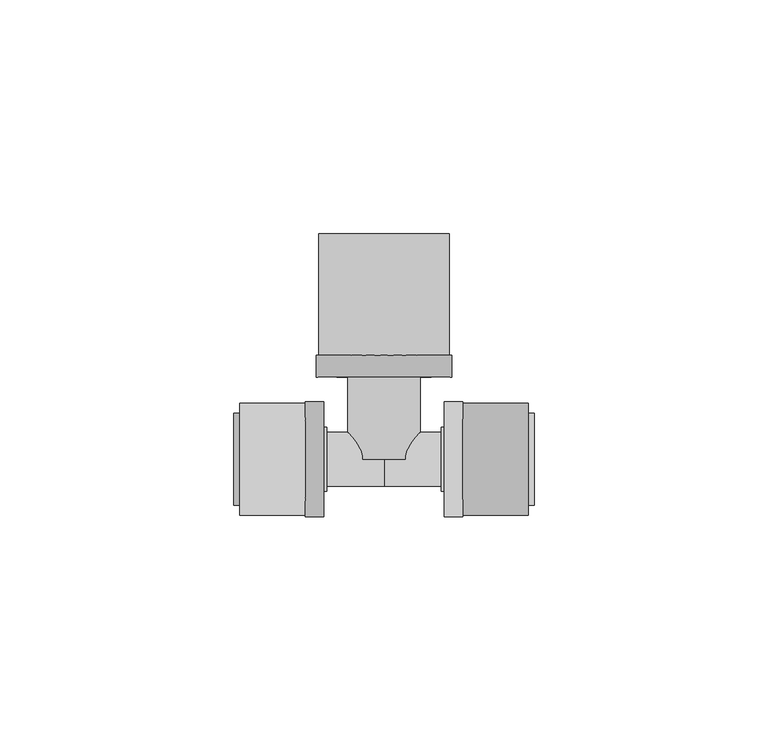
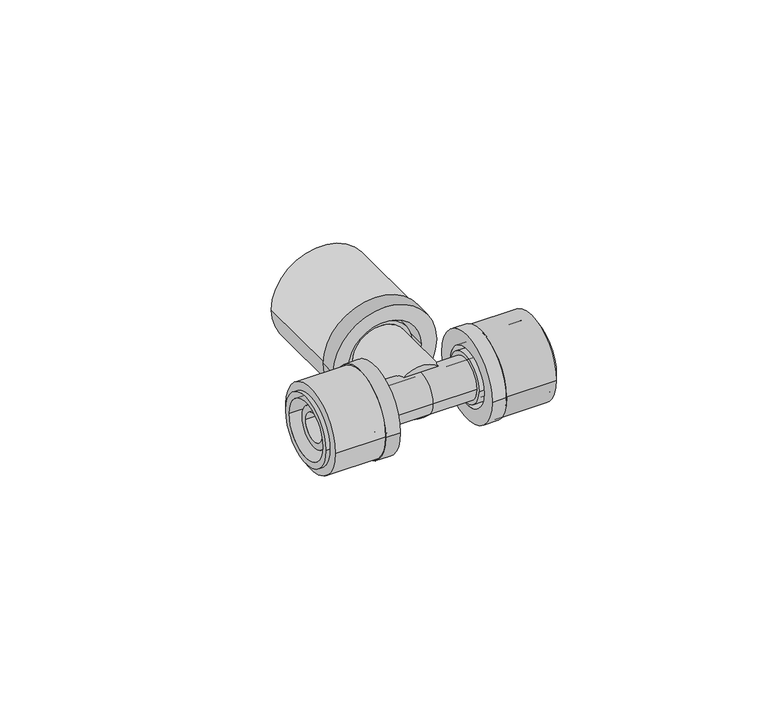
"""IFC4 building model written with IfcOpenShell, lengths in millimetres: pipe fitting geometry, FASTLOC_T-piece_EX+ : FSL T-Piece EX+ AT."""

from ifc_helpers import new_model, si_unit, point, frame, origin, origin_2d, place, context, project, spatial, polyline, circle_curve, trimmed, segment, composite_curve, outline, extrude, source, transform, mapped, element, save
from ifc_brep_helpers import plane_surface, cylinder_surface, revolved_surface, advanced_brep


def pipe_fitting_006a9863(model_context):
    return source(origin(), model_context, "Body", "SolidModel", [
        extrude(outline(composite_curve([segment(trimmed(circle_curve(origin_2d(), 12.0), [point((-12.0, 0.0))], [point((12.0, 0.0))], False, "CARTESIAN"), True, "CONTINUOUS"), segment(trimmed(circle_curve(origin_2d(), 12.0), [point((12.0, 0.0))], [point((-12.0, 0.0))], False, "CARTESIAN"), True, "CONTINUOUS")], self_intersect=False), holes=[composite_curve([segment(trimmed(circle_curve(origin_2d(), 8.85), [point((-8.85, 0.0))], [point((8.85, 0.0))], True, "CARTESIAN"), True, "CONTINUOUS"), segment(trimmed(circle_curve(origin_2d(), 8.85), [point((8.85, 0.0))], [point((-8.85, 0.0))], True, "CARTESIAN"), True, "CONTINUOUS")], self_intersect=False)]), frame((16.9, 0.0, 0.0), z_axis=(1.0, 0.0, 0.0), x_axis=(0.0, 1.0, 0.0)), (0.0, 0.0, 1.0), 14.0),
        advanced_brep(
        [(16.9, 12.35, 0.0), (16.9, -12.35, 0.0), (12.9, -12.35, 0.0), (12.9, 12.35, 0.0), (32.2, 9.85, 0.0), (32.2, -9.85, 0.0), (16.9, -9.85, 0.0), (16.9, 9.85, 0.0), (12.9, 8.15, 0.0), (12.9, -8.15, 0.0), (32.2, -8.15, 0.0), (32.2, 8.15, 0.0)],
        [
            (0, 1, circle_curve(frame((16.9, 0.0, 0.0), z_axis=(-1.0, 0.0, 0.0), x_axis=(0.0, -1.0, 0.0)), 12.35)),
            (1, 2),
            (2, 3, circle_curve(frame((12.9, 0.0, 0.0), z_axis=(1.0, 0.0, 0.0), x_axis=(0.0, -1.0, 0.0)), 12.35)),
            (3, 0),
            (4, 5, circle_curve(frame((32.2, 0.0, 0.0), z_axis=(-1.0, 0.0, 0.0), x_axis=(0.0, -1.0, 0.0)), 9.85)),
            (5, 6),
            (6, 7, circle_curve(frame((16.9, 0.0, 0.0), z_axis=(1.0, 0.0, 0.0), x_axis=(0.0, -1.0, 0.0)), 9.85)),
            (7, 4),
            (8, 9, circle_curve(frame((12.9, 0.0, 0.0), z_axis=(-1.0, 0.0, 0.0), x_axis=(0.0, -1.0, 0.0)), 8.15)),
            (9, 10),
            (10, 11, circle_curve(frame((32.2, 0.0, 0.0), z_axis=(1.0, 0.0, 0.0), x_axis=(0.0, -1.0, 0.0)), 8.15)),
            (11, 8),
            (1, 0, circle_curve(frame((16.9, 0.0, 0.0), z_axis=(-1.0, 0.0, 0.0), x_axis=(0.0, 1.0, 0.0)), 12.35)),
            (3, 2, circle_curve(frame((12.9, 0.0, 0.0), z_axis=(1.0, 0.0, 0.0), x_axis=(0.0, 1.0, 0.0)), 12.35)),
            (6, 7, circle_curve(frame((16.9, 0.0, 0.0), z_axis=(-1.0, 0.0, 0.0), x_axis=(0.0, 1.0, 0.0)), 9.85)),
            (5, 4, circle_curve(frame((32.2, 0.0, 0.0), z_axis=(-1.0, 0.0, 0.0), x_axis=(0.0, 1.0, 0.0)), 9.85)),
            (10, 11, circle_curve(frame((32.2, 0.0, 0.0), z_axis=(-1.0, 0.0, 0.0), x_axis=(0.0, 1.0, 0.0)), 8.15)),
            (9, 8, circle_curve(frame((12.9, 0.0, 0.0), z_axis=(-1.0, 0.0, 0.0), x_axis=(0.0, 1.0, 0.0)), 8.15)),
        ],
        [
            cylinder_surface(frame((12.9, 0.0, 0.0), z_axis=(1.0, 0.0, 0.0), x_axis=(0.0, -1.0, 0.0)), 12.35),
            cylinder_surface(frame((12.9, 0.0, 0.0), z_axis=(1.0, 0.0, 0.0), x_axis=(0.0, -1.0, 0.0)), 9.85),
            revolved_surface(polyline([(32.2, -8.15, 0.0), (12.9, -8.15, 0.0)]), (12.9, 0.0, 0.0), (1.0, 0.0, 0.0)),
            cylinder_surface(frame((12.9, 0.0, 0.0), z_axis=(1.0, 0.0, 0.0), x_axis=(0.0, 1.0, 0.0)), 12.35),
            plane_surface(frame((16.9, 0.0, 0.0), z_axis=(1.0, 0.0, 0.0), x_axis=(0.0, 1.0, 0.0))),
            cylinder_surface(frame((12.9, 0.0, 0.0), z_axis=(1.0, 0.0, 0.0), x_axis=(0.0, 1.0, 0.0)), 9.85),
            plane_surface(frame((32.2, 0.0, 0.0), z_axis=(1.0, 0.0, 0.0), x_axis=(0.0, 1.0, 0.0))),
            revolved_surface(polyline([(32.2, 8.15, 0.0), (12.9, 8.15, 0.0)]), (12.9, 0.0, 0.0), (1.0, 0.0, 0.0)),
            plane_surface(frame((12.9, 0.0, 0.0), z_axis=(-1.0, 0.0, 0.0), x_axis=(0.0, 1.0, 0.0))),
        ],
        [
            (0, [[1, 2, 3, 4]]),
            (1, [[5, 6, 7, 8]]),
            (2, [[9, 10, 11, 12]]),
            (3, [[13, -4, 14, -2]]),
            (4, [[-13, -1], [15, -7]]),
            (5, [[16, -8, -15, -6]]),
            (6, [[-16, -5], [17, -11]]),
            (7, [[18, -12, -17, -10]]),
            (8, [[-14, -3], [-18, -9]]),
        ],
    ),
        extrude(outline(composite_curve([segment(trimmed(circle_curve(origin_2d(), 12.0), [point((12.0, 0.0))], [point((-12.0, 0.0))], False, "CARTESIAN"), True, "CONTINUOUS"), segment(trimmed(circle_curve(origin_2d(), 12.0), [point((-12.0, 0.0))], [point((12.0, 0.0))], False, "CARTESIAN"), True, "CONTINUOUS")], self_intersect=False), holes=[composite_curve([segment(trimmed(circle_curve(origin_2d(), 8.85), [point((8.85, 0.0))], [point((-8.85, 0.0))], True, "CARTESIAN"), True, "CONTINUOUS"), segment(trimmed(circle_curve(origin_2d(), 8.85), [point((-8.85, 0.0))], [point((8.85, 0.0))], True, "CARTESIAN"), True, "CONTINUOUS")], self_intersect=False)]), frame((-30.9, 0.0, 0.0), z_axis=(1.0, 0.0, 0.0), x_axis=(0.0, 1.0, 0.0)), (0.0, 0.0, 1.0), 14.0),
        advanced_brep(
        [(-16.9, -12.35, 0.0), (-16.9, 12.35, 0.0), (-12.9, 12.35, 0.0), (-12.9, -12.35, 0.0), (-32.2, -9.85, 0.0), (-32.2, 9.85, 0.0), (-16.9, 9.85, 0.0), (-16.9, -9.85, 0.0), (-12.9, -8.15, 0.0), (-12.9, 8.15, 0.0), (-32.2, 8.15, 0.0), (-32.2, -8.15, 0.0)],
        [
            (0, 1, circle_curve(frame((-16.9, 0.0, 0.0), z_axis=(1.0, 0.0, 0.0), x_axis=(0.0, 1.0, 0.0)), 12.35)),
            (1, 2),
            (2, 3, circle_curve(frame((-12.9, 0.0, 0.0), z_axis=(-1.0, 0.0, 0.0), x_axis=(0.0, 1.0, 0.0)), 12.35)),
            (3, 0),
            (4, 5, circle_curve(frame((-32.2, 0.0, 0.0), z_axis=(1.0, 0.0, 0.0), x_axis=(0.0, 1.0, 0.0)), 9.85)),
            (5, 6),
            (6, 7, circle_curve(frame((-16.9, 0.0, 0.0), z_axis=(-1.0, 0.0, 0.0), x_axis=(0.0, 1.0, 0.0)), 9.85)),
            (7, 4),
            (8, 9, circle_curve(frame((-12.9, 0.0, 0.0), z_axis=(1.0, 0.0, 0.0), x_axis=(0.0, 1.0, 0.0)), 8.15)),
            (9, 10),
            (10, 11, circle_curve(frame((-32.2, 0.0, 0.0), z_axis=(-1.0, 0.0, 0.0), x_axis=(0.0, 1.0, 0.0)), 8.15)),
            (11, 8),
            (1, 0, circle_curve(frame((-16.9, 0.0, 0.0), z_axis=(1.0, 0.0, 0.0), x_axis=(0.0, -1.0, 0.0)), 12.35)),
            (3, 2, circle_curve(frame((-12.9, 0.0, 0.0), z_axis=(-1.0, 0.0, 0.0), x_axis=(0.0, -1.0, 0.0)), 12.35)),
            (6, 7, circle_curve(frame((-16.9, 0.0, 0.0), z_axis=(1.0, 0.0, 0.0), x_axis=(0.0, -1.0, 0.0)), 9.85)),
            (5, 4, circle_curve(frame((-32.2, 0.0, 0.0), z_axis=(1.0, 0.0, 0.0), x_axis=(0.0, -1.0, 0.0)), 9.85)),
            (10, 11, circle_curve(frame((-32.2, 0.0, 0.0), z_axis=(1.0, 0.0, 0.0), x_axis=(0.0, -1.0, 0.0)), 8.15)),
            (9, 8, circle_curve(frame((-12.9, 0.0, 0.0), z_axis=(1.0, 0.0, 0.0), x_axis=(0.0, -1.0, 0.0)), 8.15)),
        ],
        [
            cylinder_surface(frame((-12.9, 0.0, 0.0), z_axis=(-1.0, 0.0, 0.0), x_axis=(0.0, 1.0, 0.0)), 12.35),
            cylinder_surface(frame((-12.9, 0.0, 0.0), z_axis=(-1.0, 0.0, 0.0), x_axis=(0.0, 1.0, 0.0)), 9.85),
            revolved_surface(polyline([(-32.2, 8.15, 0.0), (-12.9, 8.15, 0.0)]), (-12.9, 0.0, 0.0), (-1.0, 0.0, 0.0)),
            cylinder_surface(frame((-12.9, 0.0, 0.0), z_axis=(-1.0, 0.0, 0.0), x_axis=(0.0, -1.0, 0.0)), 12.35),
            plane_surface(frame((-16.9, 0.0, 0.0), z_axis=(-1.0, 0.0, 0.0), x_axis=(0.0, -1.0, 0.0))),
            cylinder_surface(frame((-12.9, 0.0, 0.0), z_axis=(-1.0, 0.0, 0.0), x_axis=(0.0, -1.0, 0.0)), 9.85),
            plane_surface(frame((-32.2, 0.0, 0.0), z_axis=(-1.0, 0.0, 0.0), x_axis=(0.0, -1.0, 0.0))),
            revolved_surface(polyline([(-32.2, -8.15, 0.0), (-12.9, -8.15, 0.0)]), (-12.9, 0.0, 0.0), (-1.0, 0.0, 0.0)),
            plane_surface(frame((-12.9, 0.0, 0.0), z_axis=(1.0, 0.0, 0.0), x_axis=(0.0, -1.0, 0.0))),
        ],
        [
            (0, [[1, 2, 3, 4]]),
            (1, [[5, 6, 7, 8]]),
            (2, [[9, 10, 11, 12]]),
            (3, [[13, -4, 14, -2]]),
            (4, [[-13, -1], [15, -7]]),
            (5, [[16, -8, -15, -6]]),
            (6, [[-16, -5], [17, -11]]),
            (7, [[18, -12, -17, -10]]),
            (8, [[-14, -3], [-18, -9]]),
        ],
    ),
        extrude(outline(composite_curve([segment(trimmed(circle_curve(origin_2d(), 14.0), [point((0.0, 14.0))], [point((0.0, -14.0))], False, "CARTESIAN"), True, "CONTINUOUS"), segment(trimmed(circle_curve(origin_2d(), 14.0), [point((0.0, -14.0))], [point((0.0, 14.0))], False, "CARTESIAN"), True, "CONTINUOUS")], self_intersect=False), holes=[composite_curve([segment(trimmed(circle_curve(origin_2d(), 10.7), [point((0.0, 10.7))], [point((0.0, -10.7))], True, "CARTESIAN"), True, "CONTINUOUS"), segment(trimmed(circle_curve(origin_2d(), 10.7), [point((0.0, -10.7))], [point((0.0, 10.7))], True, "CARTESIAN"), True, "CONTINUOUS")], self_intersect=False)]), frame((0.0, 22.3, 0.0), z_axis=(0.0, 1.0, 0.0), x_axis=(0.0, 0.0, 1.0)), (0.0, 0.0, 1.0), 26.0),
        advanced_brep(
        [(-14.5, 22.3, 0.0), (14.5, 22.3, 0.0), (14.5, 17.6, 0.0), (-14.5, 17.6, 0.0), (-11.85, 39.3, 0.0), (11.85, 39.3, 0.0), (11.85, 22.3, 0.0), (-11.85, 22.3, 0.0), (-10.15, 17.6, 0.0), (10.15, 17.6, 0.0), (10.15, 39.3, 0.0), (-10.15, 39.3, 0.0)],
        [
            (0, 1, circle_curve(frame((0.0, 22.3, 0.0), z_axis=(0.0, -1.0, 0.0), x_axis=(1.0, 0.0, 0.0)), 14.5)),
            (1, 2),
            (2, 3, circle_curve(frame((0.0, 17.6, 0.0), z_axis=(0.0, 1.0, 0.0), x_axis=(1.0, 0.0, 0.0)), 14.5)),
            (3, 0),
            (4, 5, circle_curve(frame((0.0, 39.3, 0.0), z_axis=(0.0, -1.0, 0.0), x_axis=(1.0, 0.0, 0.0)), 11.85)),
            (5, 6),
            (6, 7, circle_curve(frame((0.0, 22.3, 0.0), z_axis=(0.0, 1.0, 0.0), x_axis=(1.0, 0.0, 0.0)), 11.85)),
            (7, 4),
            (8, 9, circle_curve(frame((0.0, 17.6, 0.0), z_axis=(0.0, -1.0, 0.0), x_axis=(1.0, 0.0, 0.0)), 10.15)),
            (9, 10),
            (10, 11, circle_curve(frame((0.0, 39.3, 0.0), z_axis=(0.0, 1.0, 0.0), x_axis=(1.0, 0.0, 0.0)), 10.15)),
            (11, 8),
            (1, 0, circle_curve(frame((0.0, 22.3, 0.0), z_axis=(0.0, -1.0, 0.0), x_axis=(-1.0, 0.0, 0.0)), 14.5)),
            (3, 2, circle_curve(frame((0.0, 17.6, 0.0), z_axis=(0.0, 1.0, 0.0), x_axis=(-1.0, 0.0, 0.0)), 14.5)),
            (6, 7, circle_curve(frame((0.0, 22.3, 0.0), z_axis=(0.0, -1.0, 0.0), x_axis=(-1.0, 0.0, 0.0)), 11.85)),
            (5, 4, circle_curve(frame((0.0, 39.3, 0.0), z_axis=(0.0, -1.0, 0.0), x_axis=(-1.0, 0.0, 0.0)), 11.85)),
            (10, 11, circle_curve(frame((0.0, 39.3, 0.0), z_axis=(0.0, -1.0, 0.0), x_axis=(-1.0, 0.0, 0.0)), 10.15)),
            (9, 8, circle_curve(frame((0.0, 17.6, 0.0), z_axis=(0.0, -1.0, 0.0), x_axis=(-1.0, 0.0, 0.0)), 10.15)),
        ],
        [
            cylinder_surface(frame((0.0, 17.6, 0.0), z_axis=(0.0, 1.0, 0.0), x_axis=(1.0, 0.0, 0.0)), 14.5),
            cylinder_surface(frame((0.0, 17.6, 0.0), z_axis=(0.0, 1.0, 0.0), x_axis=(1.0, 0.0, 0.0)), 11.85),
            revolved_surface(polyline([(10.15, 39.3, 0.0), (10.15, 17.6, 0.0)]), (0.0, 17.6, 0.0), (0.0, 1.0, 0.0)),
            cylinder_surface(frame((0.0, 17.6, 0.0), z_axis=(0.0, 1.0, 0.0), x_axis=(-1.0, 0.0, 0.0)), 14.5),
            plane_surface(frame((0.0, 22.3, 0.0), z_axis=(0.0, 1.0, 0.0), x_axis=(-1.0, 0.0, 0.0))),
            cylinder_surface(frame((0.0, 17.6, 0.0), z_axis=(0.0, 1.0, 0.0), x_axis=(-1.0, 0.0, 0.0)), 11.85),
            plane_surface(frame((0.0, 39.3, 0.0), z_axis=(0.0, 1.0, 0.0), x_axis=(-1.0, 0.0, 0.0))),
            revolved_surface(polyline([(-10.15, 39.3, 0.0), (-10.15, 17.6, 0.0)]), (0.0, 17.6, 0.0), (0.0, 1.0, 0.0)),
            plane_surface(frame((0.0, 17.6, 0.0), z_axis=(0.0, -1.0, 0.0), x_axis=(-1.0, 0.0, 0.0))),
        ],
        [
            (0, [[1, 2, 3, 4]]),
            (1, [[5, 6, 7, 8]]),
            (2, [[9, 10, 11, 12]]),
            (3, [[13, -4, 14, -2]]),
            (4, [[-13, -1], [15, -7]]),
            (5, [[16, -8, -15, -6]]),
            (6, [[-16, -5], [17, -11]]),
            (7, [[18, -12, -17, -10]]),
            (8, [[-14, -3], [-18, -9]]),
        ],
    ),
        advanced_brep(
        [(0.0, 5.75, 0.0), (0.0, -5.75, 0.0), (-12.24, -5.75, 0.0), (-12.24, 5.75, 0.0), (12.24, 5.75, 0.0), (12.24, -5.75, 0.0), (15.0, 6.89, 0.0), (15.0, -6.89, 0.0), (12.24, -6.89, 0.0), (12.24, 6.89, 0.0), (30.0, 5.75, 0.0), (30.0, -5.75, 0.0), (15.0, -5.75, 0.0), (15.0, 5.75, 0.0), (-30.0, 3.95, 0.0), (-30.0, -3.95, 0.0), (30.0, -3.95, 0.0), (30.0, 3.95, 0.0), (-15.0, 5.75, 0.0), (-15.0, -5.75, 0.0), (-30.0, -5.75, 0.0), (-30.0, 5.75, 0.0), (-12.24, 6.89, 0.0), (-12.24, -6.89, 0.0), (-15.0, -6.89, 0.0), (-15.0, 6.89, 0.0)],
        [
            (0, 1, circle_curve(frame((0.0, 0.0, 0.0), z_axis=(-1.0, 0.0, 0.0), x_axis=(0.0, -1.0, 0.0)), 5.75)),
            (1, 2),
            (2, 3, circle_curve(frame((-12.24, 0.0, 0.0), z_axis=(1.0, 0.0, 0.0), x_axis=(0.0, -1.0, 0.0)), 5.75)),
            (3, 0),
            (4, 5, circle_curve(frame((12.24, 0.0, 0.0), z_axis=(-1.0, 0.0, 0.0), x_axis=(0.0, -1.0, 0.0)), 5.75)),
            (5, 1),
            (0, 4),
            (6, 7, circle_curve(frame((15.0, 0.0, 0.0), z_axis=(-1.0, 0.0, 0.0), x_axis=(0.0, -1.0, 0.0)), 6.89)),
            (7, 8),
            (8, 9, circle_curve(frame((12.24, 0.0, 0.0), z_axis=(1.0, 0.0, 0.0), x_axis=(0.0, -1.0, 0.0)), 6.89)),
            (9, 6),
            (10, 11, circle_curve(frame((30.0, 0.0, 0.0), z_axis=(-1.0, 0.0, 0.0), x_axis=(0.0, -1.0, 0.0)), 5.75)),
            (11, 12),
            (12, 13, circle_curve(frame((15.0, 0.0, 0.0), z_axis=(1.0, 0.0, 0.0), x_axis=(0.0, -1.0, 0.0)), 5.75)),
            (13, 10),
            (14, 15, circle_curve(frame((-30.0, 0.0, 0.0), z_axis=(-1.0, 0.0, 0.0), x_axis=(0.0, -1.0, 0.0)), 3.95)),
            (15, 16),
            (16, 17, circle_curve(frame((30.0, 0.0, 0.0), z_axis=(1.0, 0.0, 0.0), x_axis=(0.0, -1.0, 0.0)), 3.95)),
            (17, 14),
            (18, 19, circle_curve(frame((-15.0, 0.0, 0.0), z_axis=(-1.0, 0.0, 0.0), x_axis=(0.0, -1.0, 0.0)), 5.75)),
            (19, 20),
            (20, 21, circle_curve(frame((-30.0, 0.0, 0.0), z_axis=(1.0, 0.0, 0.0), x_axis=(0.0, -1.0, 0.0)), 5.75)),
            (21, 18),
            (22, 23, circle_curve(frame((-12.24, 0.0, 0.0), z_axis=(-1.0, 0.0, 0.0), x_axis=(0.0, -1.0, 0.0)), 6.89)),
            (23, 24),
            (24, 25, circle_curve(frame((-15.0, 0.0, 0.0), z_axis=(1.0, 0.0, 0.0), x_axis=(0.0, -1.0, 0.0)), 6.89)),
            (25, 22),
            (22, 23, circle_curve(frame((-12.24, 0.0, 0.0), z_axis=(1.0, 0.0, 0.0), x_axis=(0.0, 1.0, 0.0)), 6.89)),
            (2, 3, circle_curve(frame((-12.24, 0.0, 0.0), z_axis=(-1.0, 0.0, 0.0), x_axis=(0.0, 1.0, 0.0)), 5.75)),
            (1, 0, circle_curve(frame((0.0, 0.0, 0.0), z_axis=(-1.0, 0.0, 0.0), x_axis=(0.0, 1.0, 0.0)), 5.75)),
            (5, 4, circle_curve(frame((12.24, 0.0, 0.0), z_axis=(-1.0, 0.0, 0.0), x_axis=(0.0, 1.0, 0.0)), 5.75)),
            (8, 9, circle_curve(frame((12.24, 0.0, 0.0), z_axis=(-1.0, 0.0, 0.0), x_axis=(0.0, 1.0, 0.0)), 6.89)),
            (7, 6, circle_curve(frame((15.0, 0.0, 0.0), z_axis=(-1.0, 0.0, 0.0), x_axis=(0.0, 1.0, 0.0)), 6.89)),
            (12, 13, circle_curve(frame((15.0, 0.0, 0.0), z_axis=(-1.0, 0.0, 0.0), x_axis=(0.0, 1.0, 0.0)), 5.75)),
            (11, 10, circle_curve(frame((30.0, 0.0, 0.0), z_axis=(-1.0, 0.0, 0.0), x_axis=(0.0, 1.0, 0.0)), 5.75)),
            (16, 17, circle_curve(frame((30.0, 0.0, 0.0), z_axis=(-1.0, 0.0, 0.0), x_axis=(0.0, 1.0, 0.0)), 3.95)),
            (15, 14, circle_curve(frame((-30.0, 0.0, 0.0), z_axis=(-1.0, 0.0, 0.0), x_axis=(0.0, 1.0, 0.0)), 3.95)),
            (20, 21, circle_curve(frame((-30.0, 0.0, 0.0), z_axis=(-1.0, 0.0, 0.0), x_axis=(0.0, 1.0, 0.0)), 5.75)),
            (19, 18, circle_curve(frame((-15.0, 0.0, 0.0), z_axis=(-1.0, 0.0, 0.0), x_axis=(0.0, 1.0, 0.0)), 5.75)),
            (24, 25, circle_curve(frame((-15.0, 0.0, 0.0), z_axis=(-1.0, 0.0, 0.0), x_axis=(0.0, 1.0, 0.0)), 6.89)),
        ],
        [
            cylinder_surface(frame((0.0, 0.0, 0.0), z_axis=(1.0, 0.0, 0.0), x_axis=(0.0, -1.0, 0.0)), 5.75),
            cylinder_surface(frame((0.0, 0.0, 0.0), z_axis=(1.0, 0.0, 0.0), x_axis=(0.0, -1.0, 0.0)), 6.89),
            revolved_surface(polyline([(30.0, -3.95, 0.0), (-30.0, -3.95, 0.0)]), (0.0, 0.0, 0.0), (1.0, 0.0, 0.0)),
            plane_surface(frame((-12.24, 0.0, 0.0), z_axis=(1.0, 0.0, 0.0), x_axis=(0.0, 1.0, 0.0))),
            cylinder_surface(frame((0.0, 0.0, 0.0), z_axis=(1.0, 0.0, 0.0), x_axis=(0.0, 1.0, 0.0)), 5.75),
            plane_surface(frame((12.24, 0.0, 0.0), z_axis=(-1.0, 0.0, 0.0), x_axis=(0.0, 1.0, 0.0))),
            cylinder_surface(frame((0.0, 0.0, 0.0), z_axis=(1.0, 0.0, 0.0), x_axis=(0.0, 1.0, 0.0)), 6.89),
            plane_surface(frame((15.0, 0.0, 0.0), z_axis=(1.0, 0.0, 0.0), x_axis=(0.0, 1.0, 0.0))),
            plane_surface(frame((30.0, 0.0, 0.0), z_axis=(1.0, 0.0, 0.0), x_axis=(0.0, 1.0, 0.0))),
            revolved_surface(polyline([(30.0, 3.95, 0.0), (-30.0, 3.95, 0.0)]), (0.0, 0.0, 0.0), (1.0, 0.0, 0.0)),
            plane_surface(frame((-30.0, 0.0, 0.0), z_axis=(-1.0, 0.0, 0.0), x_axis=(0.0, 1.0, 0.0))),
            plane_surface(frame((-15.0, 0.0, 0.0), z_axis=(-1.0, 0.0, 0.0), x_axis=(0.0, 1.0, 0.0))),
        ],
        [
            (0, [[1, 2, 3, 4]]),
            (0, [[5, 6, -1, 7]]),
            (1, [[8, 9, 10, 11]]),
            (0, [[12, 13, 14, 15]]),
            (2, [[16, 17, 18, 19]]),
            (0, [[20, 21, 22, 23]]),
            (1, [[24, 25, 26, 27]]),
            (3, [[28, -24], [29, -3]]),
            (4, [[30, -4, -29, -2]]),
            (4, [[31, -7, -30, -6]]),
            (5, [[32, -10], [-31, -5]]),
            (6, [[33, -11, -32, -9]]),
            (7, [[-33, -8], [34, -14]]),
            (4, [[35, -15, -34, -13]]),
            (8, [[-35, -12], [36, -18]]),
            (9, [[37, -19, -36, -17]]),
            (10, [[38, -22], [-37, -16]]),
            (4, [[39, -23, -38, -21]]),
            (11, [[40, -26], [-39, -20]]),
            (6, [[-28, -27, -40, -25]]),
        ],
    ),
        advanced_brep(
        [(5.75, 39.7, 0.0), (-5.75, 39.7, 0.0), (-5.75, 0.0, 0.0), (5.75, 0.0, 0.0), (7.75, 0.0, 0.0), (-7.75, 0.0, 0.0), (-7.75, 19.63, 0.0), (7.75, 19.63, 0.0), (8.8, 19.63, 0.0), (-8.8, 19.63, 0.0), (-8.8, 22.3, 0.0), (8.8, 22.3, 0.0), (7.75, 22.3, 0.0), (-7.75, 22.3, 0.0), (-7.75, 39.7, 0.0), (7.75, 39.7, 0.0)],
        [
            (0, 1, circle_curve(frame((0.0, 39.7, 0.0), z_axis=(0.0, 1.0, 0.0), x_axis=(-1.0, 0.0, 0.0)), 5.75)),
            (1, 2),
            (2, 3, circle_curve(frame((0.0, 0.0, 0.0), z_axis=(0.0, -1.0, 0.0), x_axis=(-1.0, 0.0, 0.0)), 5.75)),
            (3, 0),
            (4, 5, circle_curve(frame((0.0, 0.0, 0.0), z_axis=(0.0, 1.0, 0.0), x_axis=(-1.0, 0.0, 0.0)), 7.75)),
            (5, 6),
            (6, 7, circle_curve(frame((0.0, 19.63, 0.0), z_axis=(0.0, -1.0, 0.0), x_axis=(-1.0, 0.0, 0.0)), 7.75)),
            (7, 4),
            (8, 9, circle_curve(frame((0.0, 19.63, 0.0), z_axis=(0.0, 1.0, 0.0), x_axis=(-1.0, 0.0, 0.0)), 8.8)),
            (9, 10),
            (10, 11, circle_curve(frame((0.0, 22.3, 0.0), z_axis=(0.0, -1.0, 0.0), x_axis=(-1.0, 0.0, 0.0)), 8.8)),
            (11, 8),
            (12, 13, circle_curve(frame((0.0, 22.3, 0.0), z_axis=(0.0, 1.0, 0.0), x_axis=(-1.0, 0.0, 0.0)), 7.75)),
            (13, 14),
            (14, 15, circle_curve(frame((0.0, 39.7, 0.0), z_axis=(0.0, -1.0, 0.0), x_axis=(-1.0, 0.0, 0.0)), 7.75)),
            (15, 12),
            (1, 0, circle_curve(frame((0.0, 39.7, 0.0), z_axis=(0.0, 1.0, 0.0), x_axis=(1.0, 0.0, 0.0)), 5.75)),
            (3, 2, circle_curve(frame((0.0, 0.0, 0.0), z_axis=(0.0, -1.0, 0.0), x_axis=(1.0, 0.0, 0.0)), 5.75)),
            (4, 5, circle_curve(frame((0.0, 0.0, 0.0), z_axis=(0.0, -1.0, 0.0), x_axis=(1.0, 0.0, 0.0)), 7.75)),
            (7, 6, circle_curve(frame((0.0, 19.63, 0.0), z_axis=(0.0, -1.0, 0.0), x_axis=(1.0, 0.0, 0.0)), 7.75)),
            (8, 9, circle_curve(frame((0.0, 19.63, 0.0), z_axis=(0.0, -1.0, 0.0), x_axis=(1.0, 0.0, 0.0)), 8.8)),
            (11, 10, circle_curve(frame((0.0, 22.3, 0.0), z_axis=(0.0, -1.0, 0.0), x_axis=(1.0, 0.0, 0.0)), 8.8)),
            (12, 13, circle_curve(frame((0.0, 22.3, 0.0), z_axis=(0.0, -1.0, 0.0), x_axis=(1.0, 0.0, 0.0)), 7.75)),
            (15, 14, circle_curve(frame((0.0, 39.7, 0.0), z_axis=(0.0, -1.0, 0.0), x_axis=(1.0, 0.0, 0.0)), 7.75)),
        ],
        [
            revolved_surface(polyline([(-5.75, 0.0, 0.0), (-5.75, 39.7, 0.0)]), (0.0, 0.0, 0.0), (0.0, -1.0, 0.0)),
            cylinder_surface(frame((0.0, 0.0, 0.0), z_axis=(0.0, -1.0, 0.0), x_axis=(-1.0, 0.0, 0.0)), 7.75),
            cylinder_surface(frame((0.0, 0.0, 0.0), z_axis=(0.0, -1.0, 0.0), x_axis=(-1.0, 0.0, 0.0)), 8.8),
            revolved_surface(polyline([(5.75, 0.0, 0.0), (5.75, 39.7, 0.0)]), (0.0, 0.0, 0.0), (0.0, -1.0, 0.0)),
            plane_surface(frame((0.0, 0.0, 0.0), z_axis=(0.0, -1.0, 0.0), x_axis=(1.0, 0.0, 0.0))),
            cylinder_surface(frame((0.0, 0.0, 0.0), z_axis=(0.0, -1.0, 0.0), x_axis=(1.0, 0.0, 0.0)), 7.75),
            plane_surface(frame((0.0, 19.63, 0.0), z_axis=(0.0, -1.0, 0.0), x_axis=(1.0, 0.0, 0.0))),
            cylinder_surface(frame((0.0, 0.0, 0.0), z_axis=(0.0, -1.0, 0.0), x_axis=(1.0, 0.0, 0.0)), 8.8),
            plane_surface(frame((0.0, 22.3, 0.0), z_axis=(0.0, 1.0, 0.0), x_axis=(1.0, 0.0, 0.0))),
            plane_surface(frame((0.0, 39.7, 0.0), z_axis=(0.0, 1.0, 0.0), x_axis=(1.0, 0.0, 0.0))),
        ],
        [
            (0, [[1, 2, 3, 4]]),
            (1, [[5, 6, 7, 8]]),
            (2, [[9, 10, 11, 12]]),
            (1, [[13, 14, 15, 16]]),
            (3, [[17, -4, 18, -2]]),
            (4, [[19, -5], [-18, -3]]),
            (5, [[-19, -8, 20, -6]]),
            (6, [[21, -9], [-20, -7]]),
            (7, [[-21, -12, 22, -10]]),
            (8, [[-22, -11], [23, -13]]),
            (5, [[-23, -16, 24, -14]]),
            (9, [[-24, -15], [-17, -1]]),
        ],
    ),
    ])


if __name__ == "__main__":
    model = new_model("IFC4")
    model_context = context("Model", 3, world=origin())
    ifc_project = project(units=[si_unit("LENGTHUNIT", "METRE", prefix="MILLI")], contexts=[model_context])
    site = spatial("IfcSite", under=ifc_project)
    building = spatial("IfcBuilding", under=site)
    placement = place(None, origin())
    pipe_fitting_shape = pipe_fitting_006a9863(model_context)
    element("IfcPipeFitting", 1, ObjectType="FASTLOC_T-piece_EX+ : FSL T-Piece EX+ AT", at=placement, inside=building, context=model_context, shape_type="MappedRepresentation", body=[
        mapped(pipe_fitting_shape, transform((0.0, 0.0, 0.0), x_axis=(1.0, 0.0, 0.0), y_axis=(0.0, 1.0, 0.0), z_axis=(0.0, 0.0, 1.0))),
    ])
    save(model, "model.ifc")
